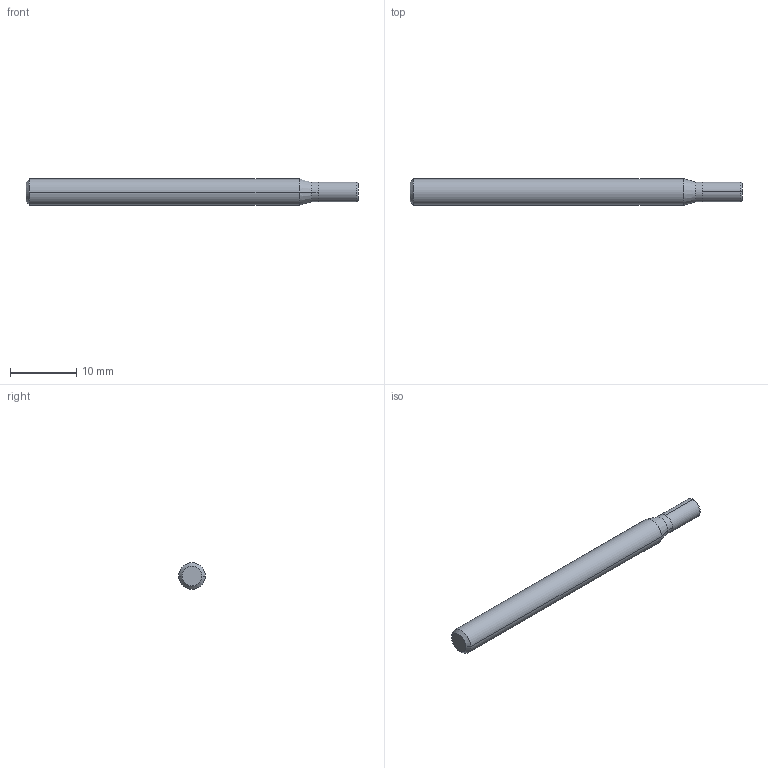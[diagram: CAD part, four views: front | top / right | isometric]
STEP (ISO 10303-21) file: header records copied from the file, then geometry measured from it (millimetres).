
FILE_DESCRIPTION (( 'STEP AP214' ), '1' );
FILE_NAME ('G9B84030.STEP', '2018-07-03T06:33:10', ( 'USER' ), ( '' ), 'SwSTEP 2.0', 'SolidWorks 2014', '' );
FILE_SCHEMA (( 'AUTOMOTIVE_DESIGN' ));
Length unit declared in the file: millimetre
Products named in the file (1): G9B84030
Bounding box: 50 x 4 x 4 mm (x, y, z)
Volume: 582.9 mm3; surface area: 633.1 mm2
Topology: 2 solids, 2 shells, 16 faces, 28 edges, 16 vertices
Faces by surface type: cylinder 6, plane 4, cone 4, torus 2
Entity records: 495 total; most frequent: DIRECTION 80, CARTESIAN_POINT 61, ORIENTED_EDGE 56, AXIS2_PLACEMENT_3D 35, EDGE_CURVE 28, CIRCLE 18, FACE_OUTER_BOUND 16, ADVANCED_FACE 16
